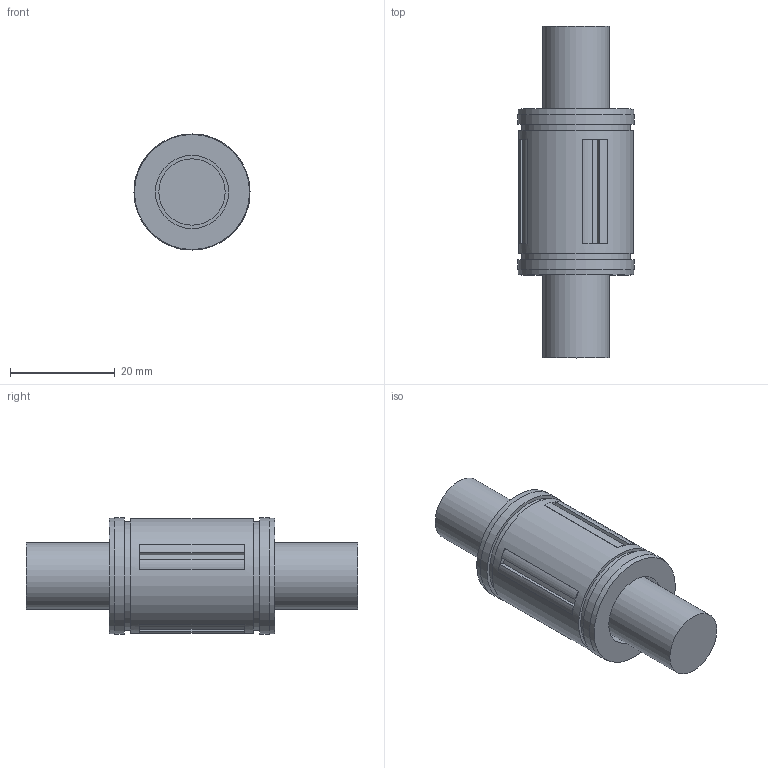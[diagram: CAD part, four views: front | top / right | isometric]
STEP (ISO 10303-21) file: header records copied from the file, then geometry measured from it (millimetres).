
FILE_DESCRIPTION((''),'2;1');
FILE_NAME('D:\STEP\SUPER\LMBS\LMBS08.stp','2013-02-14T08:04:17',('user2'),(''),'Autodesk Inventor 2012','Autodesk Inventor 2012','');
FILE_SCHEMA(('AUTOMOTIVE_DESIGN { 1 0 10303 214 1 1 1 1 }'));
Length unit declared in the file: millimetre
Products named in the file (1): LMBS08
Bounding box: 22.23 x 63.5 x 22.23 mm (x, y, z)
Volume: 15708.1 mm3; surface area: 5403.2 mm2
Topology: 1 solids, 1 shells, 73 faces, 159 edges, 100 vertices
Faces by surface type: plane 54, cylinder 17, cone 2
Full cylindrical faces by diameter (mm): 12.7 x2, 14 x2, 20.85 x2, 22 x1, 22.225 x2
Entity records: 1984 total; most frequent: DIRECTION 356, CARTESIAN_POINT 322, ORIENTED_EDGE 296, EDGE_CURVE 148, AXIS2_PLACEMENT_3D 134, VERTEX_POINT 100, EDGE_LOOP 96, VECTOR 88
